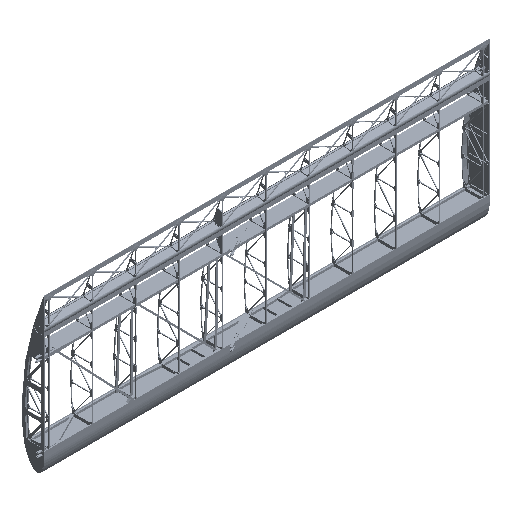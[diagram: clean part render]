
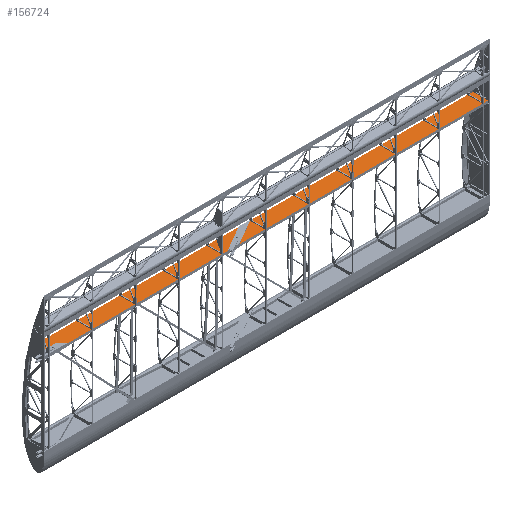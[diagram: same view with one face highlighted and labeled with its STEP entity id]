
A CAD part, isometric view. The second image highlights one B-rep face of the part: STEP entity #156724.
In plain terms, the highlighted planar face has unit normal (0, 0, 1).
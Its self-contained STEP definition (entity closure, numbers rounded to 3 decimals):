
#12100=FACE_BOUND('',#31839,.T.);
#12101=FACE_BOUND('',#31840,.T.);
#12102=FACE_BOUND('',#31841,.T.);
#12103=FACE_BOUND('',#31842,.T.);
#12669=PLANE('',#171632);
#20322=FACE_OUTER_BOUND('',#31838,.T.);
#31838=EDGE_LOOP('',(#113886,#113887,#113888,#113889));
#31839=EDGE_LOOP('',(#113890));
#31840=EDGE_LOOP('',(#113891));
#31841=EDGE_LOOP('',(#113892));
#31842=EDGE_LOOP('',(#113893));
#43736=LINE('',#248889,#56885);
#43739=LINE('',#248895,#56888);
#43742=LINE('',#248901,#56891);
#43745=LINE('',#248905,#56894);
#56885=VECTOR('',#188984,0.394);
#56888=VECTOR('',#188989,0.394);
#56891=VECTOR('',#188994,0.394);
#56894=VECTOR('',#188999,0.394);
#69535=CIRCLE('',#171618,0.125);
#69537=CIRCLE('',#171621,0.125);
#69538=CIRCLE('',#171623,0.125);
#69540=CIRCLE('',#171626,0.125);
#75001=VERTEX_POINT('',#248861);
#75003=VERTEX_POINT('',#248867);
#75004=VERTEX_POINT('',#248871);
#75006=VERTEX_POINT('',#248877);
#75010=VERTEX_POINT('',#248886);
#75011=VERTEX_POINT('',#248888);
#75013=VERTEX_POINT('',#248894);
#75015=VERTEX_POINT('',#248900);
#90900=EDGE_CURVE('',#75001,#75001,#69535,.T.);
#90903=EDGE_CURVE('',#75003,#75003,#69537,.T.);
#90904=EDGE_CURVE('',#75004,#75004,#69538,.T.);
#90907=EDGE_CURVE('',#75006,#75006,#69540,.T.);
#90912=EDGE_CURVE('',#75011,#75010,#43736,.F.);
#90915=EDGE_CURVE('',#75013,#75011,#43739,.T.);
#90918=EDGE_CURVE('',#75015,#75013,#43742,.T.);
#90921=EDGE_CURVE('',#75010,#75015,#43745,.T.);
#113886=ORIENTED_EDGE('',*,*,#90921,.T.);
#113887=ORIENTED_EDGE('',*,*,#90918,.T.);
#113888=ORIENTED_EDGE('',*,*,#90915,.T.);
#113889=ORIENTED_EDGE('',*,*,#90912,.T.);
#113890=ORIENTED_EDGE('',*,*,#90900,.T.);
#113891=ORIENTED_EDGE('',*,*,#90903,.T.);
#113892=ORIENTED_EDGE('',*,*,#90904,.T.);
#113893=ORIENTED_EDGE('',*,*,#90907,.T.);
#156724=ADVANCED_FACE('',(#20322,#12100,#12101,#12102,#12103),#12669,.T.);
#171618=AXIS2_PLACEMENT_3D('',#248863,#188957,#188958);
#171621=AXIS2_PLACEMENT_3D('',#248869,#188964,#188965);
#171623=AXIS2_PLACEMENT_3D('',#248872,#188968,#188969);
#171626=AXIS2_PLACEMENT_3D('',#248878,#188975,#188976);
#171632=AXIS2_PLACEMENT_3D('',#248906,#189000,#189001);
#188957=DIRECTION('center_axis',(0.,0.,-1.));
#188958=DIRECTION('ref_axis',(1.,0.,0.));
#188964=DIRECTION('center_axis',(0.,0.,-1.));
#188965=DIRECTION('ref_axis',(1.,0.,0.));
#188968=DIRECTION('center_axis',(0.,0.,-1.));
#188969=DIRECTION('ref_axis',(-1.,0.,0.));
#188975=DIRECTION('center_axis',(0.,0.,-1.));
#188976=DIRECTION('ref_axis',(-1.,0.,0.));
#188984=DIRECTION('',(1.,0.,0.));
#188989=DIRECTION('',(0.,1.,0.));
#188994=DIRECTION('',(1.,0.,0.));
#188999=DIRECTION('',(0.,-1.,0.));
#189000=DIRECTION('center_axis',(0.,0.,1.));
#189001=DIRECTION('ref_axis',(1.,0.,0.));
#248861=CARTESIAN_POINT('',(77.37,12.559,29.185));
#248863=CARTESIAN_POINT('Origin',(77.495,12.559,29.185));
#248867=CARTESIAN_POINT('',(75.638,11.559,29.185));
#248869=CARTESIAN_POINT('Origin',(75.763,11.559,29.185));
#248871=CARTESIAN_POINT('',(9.855,11.404,29.185));
#248872=CARTESIAN_POINT('Origin',(9.73,11.404,29.185));
#248877=CARTESIAN_POINT('',(12.73,11.404,29.185));
#248878=CARTESIAN_POINT('Origin',(12.605,11.404,29.185));
#248886=CARTESIAN_POINT('',(8.357,15.801,29.185));
#248888=CARTESIAN_POINT('',(162.357,15.801,29.185));
#248889=CARTESIAN_POINT('',(123.857,15.801,29.185));
#248894=CARTESIAN_POINT('',(162.357,10.526,29.185));
#248895=CARTESIAN_POINT('',(162.357,10.526,29.185));
#248900=CARTESIAN_POINT('',(8.357,10.526,29.185));
#248901=CARTESIAN_POINT('',(8.357,10.526,29.185));
#248905=CARTESIAN_POINT('',(8.357,15.401,29.185));
#248906=CARTESIAN_POINT('Origin',(85.357,12.963,29.185));
